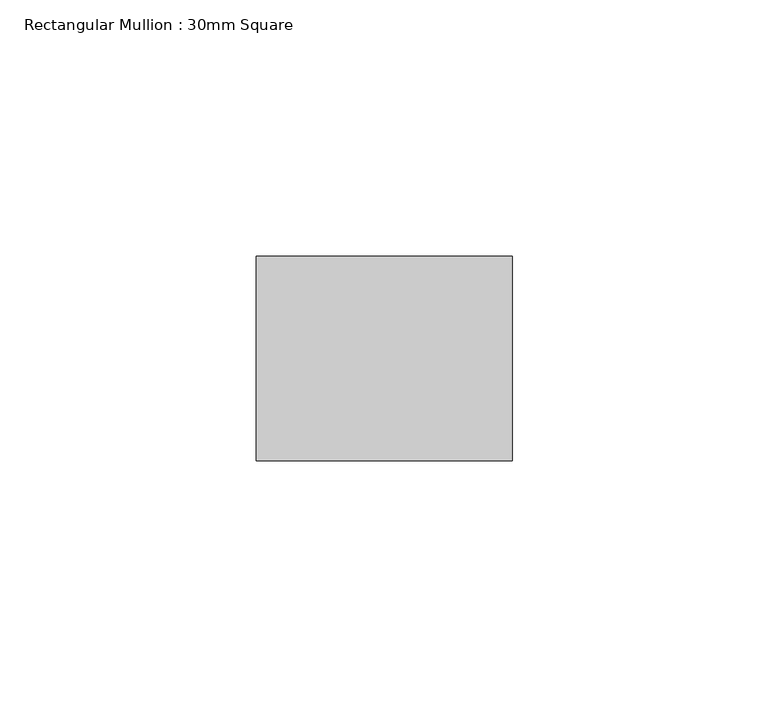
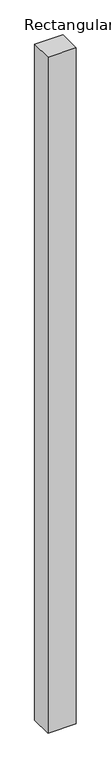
"""IFC4 building model written with IfcOpenShell, lengths in millimetres: member geometry, Rectangular Mullion : 30mm Square."""

from ifc_helpers import new_model, si_unit, frame, origin, place, context, project, spatial, polyline, outline, extrude, source, transform, mapped, element, save


def rectangular_mullion_30mm_square_6e98ca6d(model_context):
    return source(origin(), model_context, "Body", "SweptSolid", [
        extrude(outline(polyline([(0.0, 20.0), (0.0, -20.0), (-50.0, -20.0), (-50.0, 20.0), (0.0, 20.0)])), frame((0.0, 0.0, -1260.0), z_axis=(0.0, 0.0, 1.0), x_axis=(1.0, 0.0, 0.0)), (0.0, 0.0, 1.0), 1260.0),
    ])


if __name__ == "__main__":
    model = new_model("IFC4")
    model_context = context("Model", 3, world=origin())
    ifc_project = project(units=[si_unit("LENGTHUNIT", "METRE", prefix="MILLI")], contexts=[model_context])
    site = spatial("IfcSite", under=ifc_project)
    building = spatial("IfcBuilding", under=site)
    placement = place(None, origin())
    rectangular_mullion_30mm_square_shape = rectangular_mullion_30mm_square_6e98ca6d(model_context)
    element("IfcMember", 1, ObjectType="Rectangular Mullion : 30mm Square", at=placement, inside=building, context=model_context, shape_type="MappedRepresentation", body=[
        mapped(rectangular_mullion_30mm_square_shape, transform((0.0, 0.0, 0.0), x_axis=(1.0, 0.0, 0.0), y_axis=(0.0, 1.0, 0.0), z_axis=(0.0, 0.0, 1.0))),
    ])
    save(model, "model.ifc")
